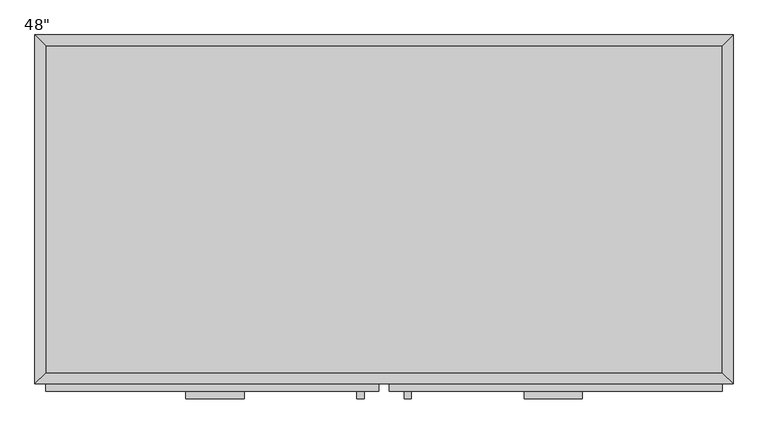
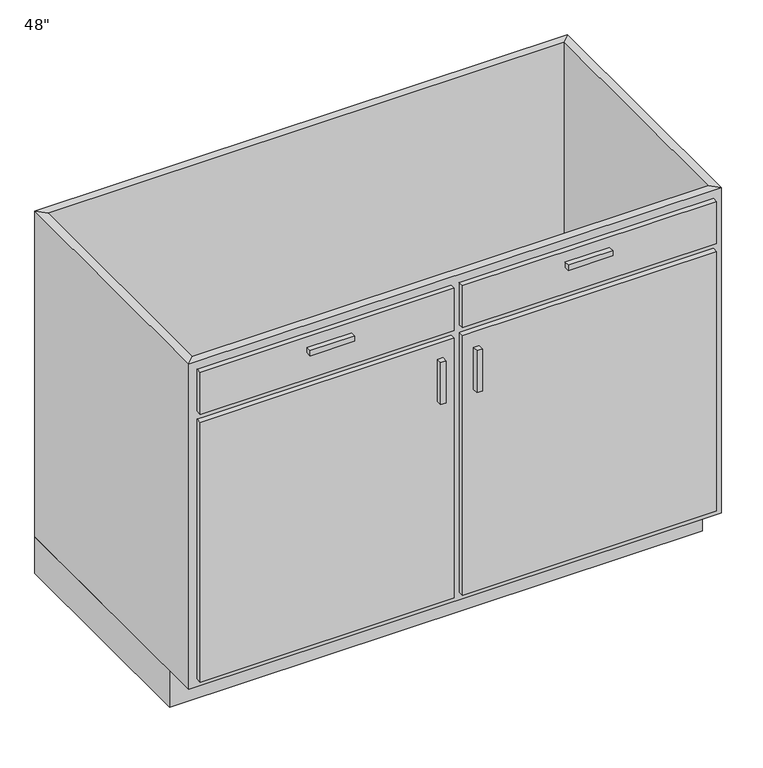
"""IFC4 building model written with IfcOpenShell, lengths in millimetres: furniture geometry."""

from ifc_helpers import new_model, si_unit, frame, origin, origin_with_axes, place, context, project, spatial, polyline, outline, extrude, faceted_brep, source, transform, mapped, element, save


def furniture_1f73a918(model_context):
    return source(origin(), model_context, "Body", "SolidModel", [
        extrude(outline(polyline([(-225.7372951, -635.0), (-327.3372951, -635.0), (-327.3372951, -622.3), (-225.7372951, -622.3), (-225.7372951, -635.0)])), frame((0.0, 0.0, 819.15), z_axis=(0.0, 0.0, 1.0), x_axis=(1.0, 0.0, 0.0)), (0.0, 0.0, 1.0), 12.7),
        extrude(outline(polyline([(364.8127049, -635.0), (263.2127049, -635.0), (263.2127049, -622.3), (364.8127049, -622.3), (364.8127049, -635.0)])), frame((0.0, 0.0, 819.15), z_axis=(0.0, 0.0, 1.0), x_axis=(1.0, 0.0, 0.0)), (0.0, 0.0, 1.0), 12.7),
        extrude(outline(polyline([(-16.1872951, -635.0), (-28.8872951, -635.0), (-28.8872951, -622.3), (-16.1872951, -622.3), (-16.1872951, -635.0)])), frame((0.0, 0.0, 596.9), z_axis=(0.0, 0.0, 1.0), x_axis=(1.0, 0.0, 0.0)), (0.0, 0.0, 1.0), 101.6),
        extrude(outline(polyline([(66.3627049, -635.0), (53.6627049, -635.0), (53.6627049, -622.3), (66.3627049, -622.3), (66.3627049, -635.0)])), frame((0.0, 0.0, 596.9), z_axis=(0.0, 0.0, 1.0), x_axis=(1.0, 0.0, 0.0)), (0.0, 0.0, 1.0), 101.6),
        extrude(outline(polyline([(609.2877049, -19.05), (609.2877049, -590.55), (-571.8122951, -590.55), (-571.8122951, -19.05), (609.2877049, -19.05)])), frame((0.0, 0.0, 88.9), z_axis=(0.0, 0.0, 1.0), x_axis=(1.0, 0.0, 0.0)), (0.0, 0.0, 1.0), 19.05),
        faceted_brep([(609.2877049, -590.55, 876.3), (609.2877049, -590.55, 88.9), (-571.8122951, -590.55, 88.9), (-571.8122951, -590.55, 876.3), (628.3377049, -609.6, 876.3), (-590.8622951, -609.6, 876.3), (628.3377049, -609.6, 88.9), (-590.8622951, -609.6, 88.9), (-571.8122951, -19.05, 88.9), (-571.8122951, -19.05, 876.3), (-590.8622951, 0.0, 876.3), (-590.8622951, 0.0, 88.9), (609.2877049, -19.05, 88.9), (609.2877049, -19.05, 876.3), (628.3377049, 0.0, 876.3), (628.3377049, 0.0, 88.9)], [[[0, 1, 2, 3]], [[4, 0, 3, 5]], [[6, 4, 5, 7]], [[1, 6, 7, 2]], [[3, 2, 8, 9]], [[5, 3, 9, 10]], [[7, 5, 10, 11]], [[2, 7, 11, 8]], [[9, 8, 12, 13]], [[10, 9, 13, 14]], [[11, 10, 14, 15]], [[8, 11, 15, 12]], [[13, 12, 1, 0]], [[14, 13, 0, 4]], [[15, 14, 4, 6]], [[12, 15, 6, 1]]]),
        extrude(outline(polyline([(628.3377049, 0.0), (628.3377049, -533.4), (-590.8622951, -533.4), (-590.8622951, 0.0), (628.3377049, 0.0)])), origin_with_axes(), (0.0, 0.0, 1.0), 88.9),
        extrude(outline(polyline([(9.2127049, -622.3), (-571.8122951, -622.3), (-571.8122951, -609.6), (9.2127049, -609.6), (9.2127049, -622.3)])), frame((0.0, 0.0, 755.65), z_axis=(0.0, 0.0, 1.0), x_axis=(1.0, 0.0, 0.0)), (0.0, 0.0, 1.0), 101.6),
        extrude(outline(polyline([(609.2877049, -622.3), (28.2627049, -622.3), (28.2627049, -609.6), (609.2877049, -609.6), (609.2877049, -622.3)])), frame((0.0, 0.0, 755.65), z_axis=(0.0, 0.0, 1.0), x_axis=(1.0, 0.0, 0.0)), (0.0, 0.0, 1.0), 101.6),
        extrude(outline(polyline([(9.2127049, -622.3), (-571.8122951, -622.3), (-571.8122951, -609.6), (9.2127049, -609.6), (9.2127049, -622.3)])), frame((0.0, 0.0, 107.95), z_axis=(0.0, 0.0, 1.0), x_axis=(1.0, 0.0, 0.0)), (0.0, 0.0, 1.0), 628.65),
        extrude(outline(polyline([(609.2877049, -622.3), (28.2627049, -622.3), (28.2627049, -609.6), (609.2877049, -609.6), (609.2877049, -622.3)])), frame((0.0, 0.0, 107.95), z_axis=(0.0, 0.0, 1.0), x_axis=(1.0, 0.0, 0.0)), (0.0, 0.0, 1.0), 628.65),
    ])


if __name__ == "__main__":
    model = new_model("IFC4")
    model_context = context("Model", 3, world=origin())
    ifc_project = project(units=[si_unit("LENGTHUNIT", "METRE", prefix="MILLI")], contexts=[model_context])
    site = spatial("IfcSite", under=ifc_project)
    building = spatial("IfcBuilding", under=site)
    placement = place(None, origin())
    furniture_shape = furniture_1f73a918(model_context)
    element("IfcFurniture", 1, ObjectType="Base Cabinet-Double Door & 2 Drawer : 48\"", at=placement, inside=building, context=model_context, shape_type="MappedRepresentation", body=[
        mapped(furniture_shape, transform((0.0, 0.0, 0.0), x_axis=(1.0, 0.0, 0.0), y_axis=(0.0, 1.0, 0.0), z_axis=(0.0, 0.0, 1.0))),
    ])
    save(model, "model.ifc")
